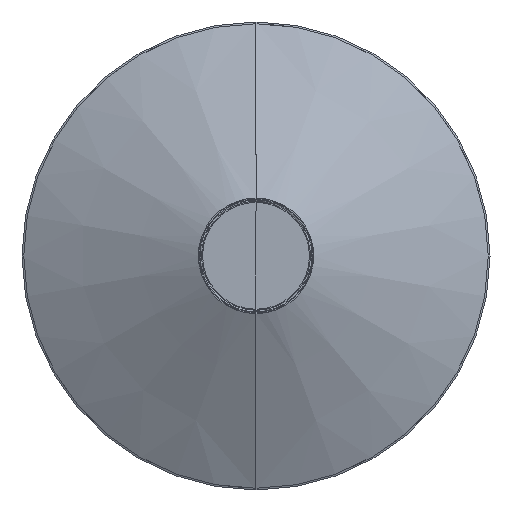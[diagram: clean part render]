
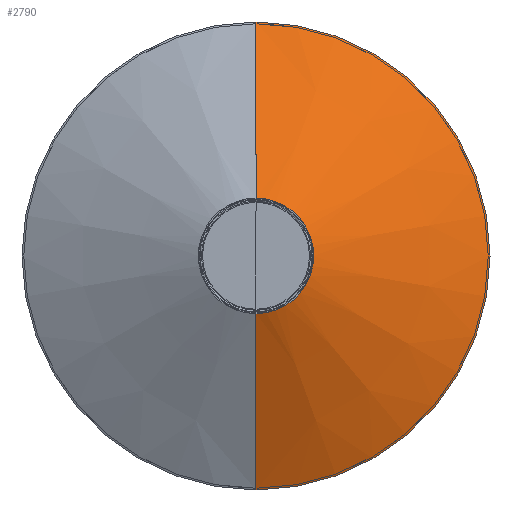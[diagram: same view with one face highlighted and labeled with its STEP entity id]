
A CAD part, top view. The second image highlights one B-rep face of the part: STEP entity #2790.
In plain terms, the highlighted conical face has half-angle 64.047 degrees and reference radius 277.4 mm.
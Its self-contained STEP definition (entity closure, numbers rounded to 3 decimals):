
#39=CONICAL_SURFACE('',#3114,277.4,1.118);
#453=FACE_OUTER_BOUND('',#673,.T.);
#673=EDGE_LOOP('',(#2222,#2223,#2224,#2225));
#834=LINE('',#10573,#957);
#835=LINE('',#10576,#958);
#957=VECTOR('',#3736,304.8);
#958=VECTOR('',#3739,304.8);
#1101=CIRCLE('',#3110,74.);
#1104=CIRCLE('',#3115,300.);
#1307=VERTEX_POINT('',#10563);
#1308=VERTEX_POINT('',#10565);
#1309=VERTEX_POINT('',#10572);
#1310=VERTEX_POINT('',#10574);
#1617=EDGE_CURVE('',#1308,#1307,#1101,.T.);
#1621=EDGE_CURVE('',#1309,#1307,#834,.T.);
#1622=EDGE_CURVE('',#1310,#1309,#1104,.T.);
#1623=EDGE_CURVE('',#1308,#1310,#835,.T.);
#2222=ORIENTED_EDGE('',*,*,#1617,.T.);
#2223=ORIENTED_EDGE('',*,*,#1621,.F.);
#2224=ORIENTED_EDGE('',*,*,#1622,.F.);
#2225=ORIENTED_EDGE('',*,*,#1623,.F.);
#2790=ADVANCED_FACE('',(#453),#39,.T.);
#3110=AXIS2_PLACEMENT_3D('',#10566,#3725,#3726);
#3114=AXIS2_PLACEMENT_3D('',#10571,#3734,#3735);
#3115=AXIS2_PLACEMENT_3D('',#10575,#3737,#3738);
#3725=DIRECTION('center_axis',(0.,0.,-1.));
#3726=DIRECTION('ref_axis',(0.809,0.588,0.));
#3734=DIRECTION('center_axis',(0.,0.,
-1.));
#3735=DIRECTION('ref_axis',(0.,-1.,0.));
#3736=DIRECTION('',(0.899,0.,0.438));
#3737=DIRECTION('center_axis',(0.,0.,-1.));
#3738=DIRECTION('ref_axis',(0.809,0.588,0.));
#3739=DIRECTION('',(0.899,0.,-0.438));
#10563=CARTESIAN_POINT('',(-74.,0.,481.));
#10565=CARTESIAN_POINT('',(74.,0.,481.));
#10566=CARTESIAN_POINT('Origin',(0.,0.,
481.));
#10571=CARTESIAN_POINT('Origin',(0.,0.,
382.));
#10572=CARTESIAN_POINT('',(-300.,0.,371.));
#10573=CARTESIAN_POINT('',(-300.,0.,371.));
#10574=CARTESIAN_POINT('',(300.,0.,371.));
#10575=CARTESIAN_POINT('Origin',(0.,0.,
371.));
#10576=CARTESIAN_POINT('',(74.,0.,481.));
